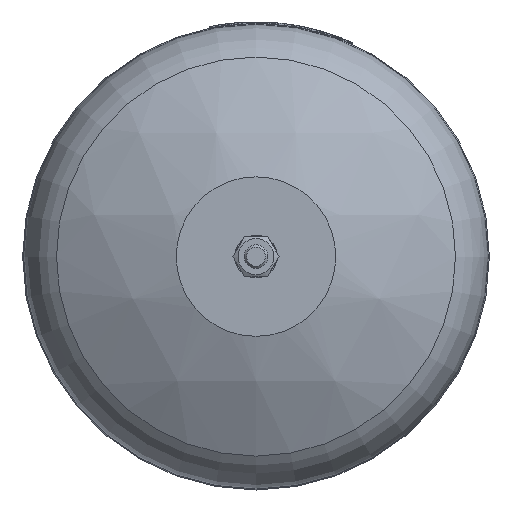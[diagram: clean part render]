
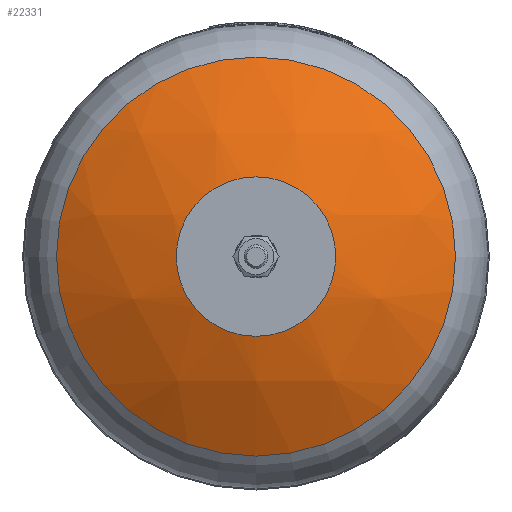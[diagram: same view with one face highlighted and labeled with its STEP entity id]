
A CAD part, front view. The second image highlights one B-rep face of the part: STEP entity #22331.
In plain terms, the highlighted spherical face has radius 159 mm.
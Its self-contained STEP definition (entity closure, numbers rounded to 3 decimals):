
#17=SPHERICAL_SURFACE('',#24002,159.);
#4204=FACE_BOUND('',#7742,.T.);
#6390=FACE_OUTER_BOUND('',#7741,.T.);
#7741=EDGE_LOOP('',(#20347));
#7742=EDGE_LOOP('',(#20348));
#8215=CIRCLE('',#24001,85.047);
#8216=CIRCLE('',#24003,34.);
#10435=VERTEX_POINT('',#47499);
#10436=VERTEX_POINT('',#47502);
#13756=EDGE_CURVE('',#10435,#10435,#8215,.T.);
#13757=EDGE_CURVE('',#10436,#10436,#8216,.T.);
#20347=ORIENTED_EDGE('',*,*,#13756,.T.);
#20348=ORIENTED_EDGE('',*,*,#13757,.F.);
#22331=ADVANCED_FACE('',(#6390,#4204),#17,.T.);
#24001=AXIS2_PLACEMENT_3D('',#47500,#28934,#28935);
#24002=AXIS2_PLACEMENT_3D('',#47501,#28936,#28937);
#24003=AXIS2_PLACEMENT_3D('',#47503,#28938,#28939);
#28934=DIRECTION('center_axis',(0.,-1.,0.));
#28935=DIRECTION('ref_axis',(1.,0.,0.));
#28936=DIRECTION('center_axis',(0.,0.,
1.));
#28937=DIRECTION('ref_axis',(-1.,0.,0.));
#28938=DIRECTION('center_axis',(0.,-1.,0.));
#28939=DIRECTION('ref_axis',(1.,0.,0.));
#47499=CARTESIAN_POINT('',(85.047,-143.021,0.));
#47500=CARTESIAN_POINT('Origin',(0.,-143.021,
0.));
#47501=CARTESIAN_POINT('Origin',(0.,-8.678,
0.));
#47502=CARTESIAN_POINT('',(34.,-164.,0.));
#47503=CARTESIAN_POINT('Origin',(0.,-164.,0.));
